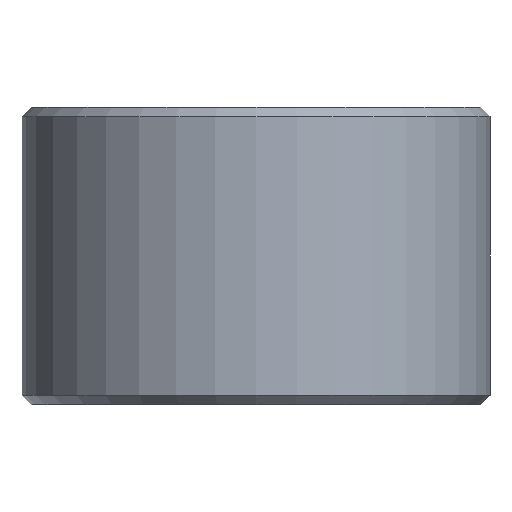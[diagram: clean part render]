
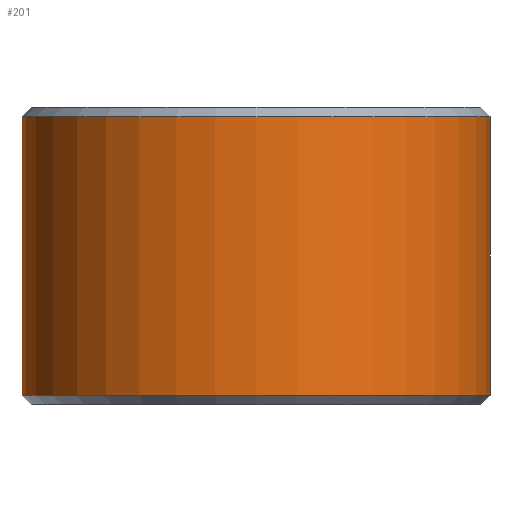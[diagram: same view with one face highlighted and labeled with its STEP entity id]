
A CAD part, front view. The second image highlights one B-rep face of the part: STEP entity #201.
In plain terms, the highlighted cylindrical face has radius 5 mm (diameter 10 mm), a full revolution.
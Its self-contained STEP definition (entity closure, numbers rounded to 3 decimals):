
#43 = CONICAL_SURFACE('',#44,4.8,0.785);
#44 = AXIS2_PLACEMENT_3D('',#45,#46,#47);
#45 = CARTESIAN_POINT('',(0.,0.,6.35));
#46 = DIRECTION('',(0.,0.,-1.));
#47 = DIRECTION('',(-1.,0.,0.));
#137 = CONICAL_SURFACE('',#138,5.,0.785);
#138 = AXIS2_PLACEMENT_3D('',#139,#140,#141);
#139 = CARTESIAN_POINT('',(0.,0.,0.2));
#140 = DIRECTION('',(0.,0.,1.));
#141 = DIRECTION('',(1.,0.,-0.));
#201 = ADVANCED_FACE('',(#202),#217,.T.);
#202 = FACE_BOUND('',#203,.T.);
#203 = EDGE_LOOP('',(#204,#235,#257,#280,#302));
#204 = ORIENTED_EDGE('',*,*,#205,.T.);
#205 = EDGE_CURVE('',#206,#208,#210,.T.);
#206 = VERTEX_POINT('',#207);
#207 = CARTESIAN_POINT('',(5.,0.,0.2));
#208 = VERTEX_POINT('',#209);
#209 = CARTESIAN_POINT('',(-5.,0.,0.2));
#210 = SURFACE_CURVE('',#211,(#216,#228),.PCURVE_S1.);
#211 = CIRCLE('',#212,5.);
#212 = AXIS2_PLACEMENT_3D('',#213,#214,#215);
#213 = CARTESIAN_POINT('',(0.,0.,0.2));
#214 = DIRECTION('',(0.,0.,1.));
#215 = DIRECTION('',(1.,0.,-0.));
#216 = PCURVE('',#217,#222);
#217 = CYLINDRICAL_SURFACE('',#218,5.);
#218 = AXIS2_PLACEMENT_3D('',#219,#220,#221);
#219 = CARTESIAN_POINT('',(0.,0.,6.35));
#220 = DIRECTION('',(0.,0.,-1.));
#221 = DIRECTION('',(-1.,0.,0.));
#222 = DEFINITIONAL_REPRESENTATION('',(#223),#227);
#223 = LINE('',#224,#225);
#224 = CARTESIAN_POINT('',(9.425,6.15));
#225 = VECTOR('',#226,1.);
#226 = DIRECTION('',(-1.,0.));
#227 = ( GEOMETRIC_REPRESENTATION_CONTEXT(2) 
PARAMETRIC_REPRESENTATION_CONTEXT() REPRESENTATION_CONTEXT('2D SPACE',''
  ) );
#228 = PCURVE('',#137,#229);
#229 = DEFINITIONAL_REPRESENTATION('',(#230),#234);
#230 = LINE('',#231,#232);
#231 = CARTESIAN_POINT('',(0.,0.));
#232 = VECTOR('',#233,1.);
#233 = DIRECTION('',(1.,0.));
#234 = ( GEOMETRIC_REPRESENTATION_CONTEXT(2) 
PARAMETRIC_REPRESENTATION_CONTEXT() REPRESENTATION_CONTEXT('2D SPACE',''
  ) );
#235 = ORIENTED_EDGE('',*,*,#236,.T.);
#236 = EDGE_CURVE('',#208,#206,#237,.T.);
#237 = SURFACE_CURVE('',#238,(#243,#250),.PCURVE_S1.);
#238 = CIRCLE('',#239,5.);
#239 = AXIS2_PLACEMENT_3D('',#240,#241,#242);
#240 = CARTESIAN_POINT('',(0.,0.,0.2));
#241 = DIRECTION('',(0.,0.,1.));
#242 = DIRECTION('',(1.,0.,-0.));
#243 = PCURVE('',#217,#244);
#244 = DEFINITIONAL_REPRESENTATION('',(#245),#249);
#245 = LINE('',#246,#247);
#246 = CARTESIAN_POINT('',(9.425,6.15));
#247 = VECTOR('',#248,1.);
#248 = DIRECTION('',(-1.,0.));
#249 = ( GEOMETRIC_REPRESENTATION_CONTEXT(2) 
PARAMETRIC_REPRESENTATION_CONTEXT() REPRESENTATION_CONTEXT('2D SPACE',''
  ) );
#250 = PCURVE('',#137,#251);
#251 = DEFINITIONAL_REPRESENTATION('',(#252),#256);
#252 = LINE('',#253,#254);
#253 = CARTESIAN_POINT('',(-6.283,0.));
#254 = VECTOR('',#255,1.);
#255 = DIRECTION('',(1.,0.));
#256 = ( GEOMETRIC_REPRESENTATION_CONTEXT(2) 
PARAMETRIC_REPRESENTATION_CONTEXT() REPRESENTATION_CONTEXT('2D SPACE',''
  ) );
#257 = ORIENTED_EDGE('',*,*,#258,.T.);
#258 = EDGE_CURVE('',#206,#259,#261,.T.);
#259 = VERTEX_POINT('',#260);
#260 = CARTESIAN_POINT('',(5.,0.,6.15));
#261 = SEAM_CURVE('',#262,(#266,#273),.PCURVE_S1.);
#262 = LINE('',#263,#264);
#263 = CARTESIAN_POINT('',(5.,0.,6.35));
#264 = VECTOR('',#265,1.);
#265 = DIRECTION('',(0.,0.,1.));
#266 = PCURVE('',#217,#267);
#267 = DEFINITIONAL_REPRESENTATION('',(#268),#272);
#268 = LINE('',#269,#270);
#269 = CARTESIAN_POINT('',(3.142,0.));
#270 = VECTOR('',#271,1.);
#271 = DIRECTION('',(0.,-1.));
#272 = ( GEOMETRIC_REPRESENTATION_CONTEXT(2) 
PARAMETRIC_REPRESENTATION_CONTEXT() REPRESENTATION_CONTEXT('2D SPACE',''
  ) );
#273 = PCURVE('',#217,#274);
#274 = DEFINITIONAL_REPRESENTATION('',(#275),#279);
#275 = LINE('',#276,#277);
#276 = CARTESIAN_POINT('',(9.425,0.));
#277 = VECTOR('',#278,1.);
#278 = DIRECTION('',(0.,-1.));
#279 = ( GEOMETRIC_REPRESENTATION_CONTEXT(2) 
PARAMETRIC_REPRESENTATION_CONTEXT() REPRESENTATION_CONTEXT('2D SPACE',''
  ) );
#280 = ORIENTED_EDGE('',*,*,#281,.F.);
#281 = EDGE_CURVE('',#259,#259,#282,.T.);
#282 = SURFACE_CURVE('',#283,(#288,#295),.PCURVE_S1.);
#283 = CIRCLE('',#284,5.);
#284 = AXIS2_PLACEMENT_3D('',#285,#286,#287);
#285 = CARTESIAN_POINT('',(0.,0.,6.15));
#286 = DIRECTION('',(0.,0.,1.));
#287 = DIRECTION('',(1.,0.,-0.));
#288 = PCURVE('',#217,#289);
#289 = DEFINITIONAL_REPRESENTATION('',(#290),#294);
#290 = LINE('',#291,#292);
#291 = CARTESIAN_POINT('',(9.425,0.2));
#292 = VECTOR('',#293,1.);
#293 = DIRECTION('',(-1.,0.));
#294 = ( GEOMETRIC_REPRESENTATION_CONTEXT(2) 
PARAMETRIC_REPRESENTATION_CONTEXT() REPRESENTATION_CONTEXT('2D SPACE',''
  ) );
#295 = PCURVE('',#43,#296);
#296 = DEFINITIONAL_REPRESENTATION('',(#297),#301);
#297 = LINE('',#298,#299);
#298 = CARTESIAN_POINT('',(3.142,0.2));
#299 = VECTOR('',#300,1.);
#300 = DIRECTION('',(-1.,0.));
#301 = ( GEOMETRIC_REPRESENTATION_CONTEXT(2) 
PARAMETRIC_REPRESENTATION_CONTEXT() REPRESENTATION_CONTEXT('2D SPACE',''
  ) );
#302 = ORIENTED_EDGE('',*,*,#258,.F.);
